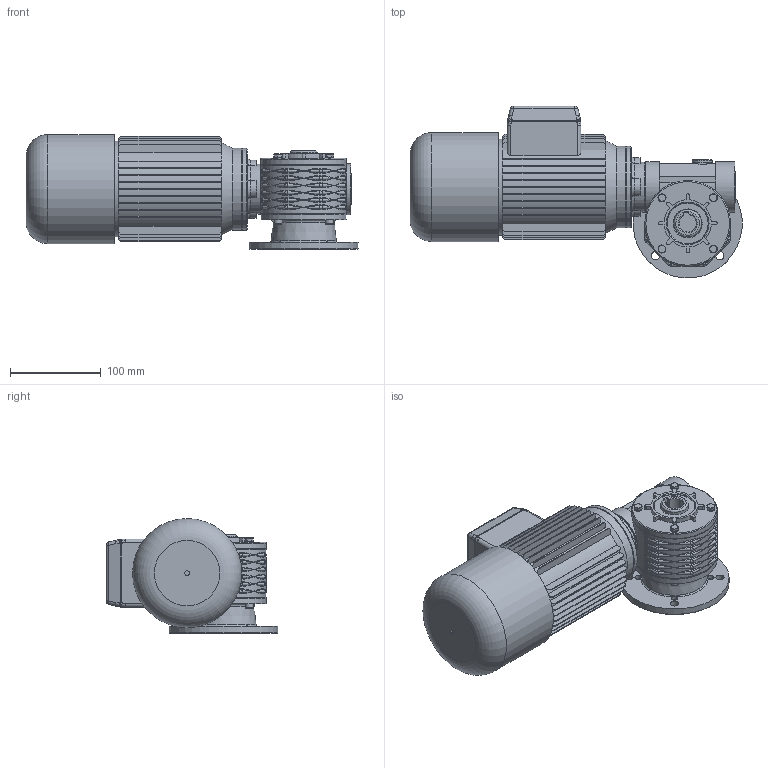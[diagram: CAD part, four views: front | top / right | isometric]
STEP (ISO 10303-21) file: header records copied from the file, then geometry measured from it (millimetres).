
FILE_DESCRIPTION((''),'2;1');
FILE_NAME('Y:\Archivi Inventor\Prog_01\GRAND_05\Figurini\MRV05 VECCHIO\63 B14 - B\MRV05_PAM63B14_F2_B.stp','2014-01-14T11:34:18',('tech3'),(''),'Autodesk Inventor 2013','Autodesk Inventor 2013','');
FILE_SCHEMA(('AUTOMOTIVE_DESIGN { 1 0 10303 214 1 1 1 1 }'));
Length unit declared in the file: millimetre
Products named in the file (19): Assieme1; V05_PRIMARIO; 0100501-A1xfigurini; 0100529-A0; RCA_35x7; 0100528-A0; PARAOLIO 20x30x8; Guarnizione 3_8 GAS; UNI 6592 5.3 x 10; PARAOLIO 30x45x8; Tappo 3_8 GAS_esagn_incsst; Corona MRV05 F=19 x figurini; UNI 5931  M 5 x  16; 0100502; 0100503_fig; DIN EN 24017 M5 x 16; DIN EN ISO 4762 M5 x 16; 0100506; motori B14 brake 63
Assembly tree (29 placements, depth 3):
  Assieme1
    V05_PRIMARIO
      0100501-A1xfigurini
      0100529-A0  x2
      RCA_35x7
      0100528-A0
      PARAOLIO 20x30x8
      Guarnizione 3_8 GAS
      UNI 6592 5.3 x 10
      PARAOLIO 30x45x8  x2
      Tappo 3_8 GAS_esagn_incsst
      Corona MRV05 F=19 x figurini
      UNI 5931  M 5 x  16  x4
      0100502
      0100503_fig
      DIN EN 24017 M5 x 16  x4
      DIN EN ISO 4762 M5 x 16  x4
    0100506
    motori B14 brake 63
Bounding box: 365.12 x 188.77 x 126.35 mm (x, y, z)
Volume: 2308401.9 mm3; surface area: 407108.8 mm2
Topology: 29 solids, 29 shells, 1291 faces, 3113 edges, 1955 vertices
Faces by surface type: plane 641, cylinder 335, torus 117, bspline 108, cone 86, sphere 4
Full cylindrical faces by diameter (mm): 4.134 x16, 5 x13, 5.3 x1, 5.5 x24, 6.88 x4, 7 x8, 8 x1, 8.5 x12, 9 x4, 10 x1, 11 x1, 14.95 x1, 16.3 x1, 16.5 x1, 22 x2, 23.105 x1, 28 x1, 30 x4, 30.8 x1, 34.105 x2, 35 x5, 42 x2, 45 x4, 55 x2, 56 x2, 60 x2, 63 x2, 70 x6, 90 x2, 93.5 x2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
Entity records: 61273 total; most frequent: CARTESIAN_POINT 34649, DIRECTION 5439, ORIENTED_EDGE 4994, EDGE_CURVE 2497, AXIS2_PLACEMENT_3D 2136, VERTEX_POINT 1626, EDGE_LOOP 1439, VECTOR 1167
